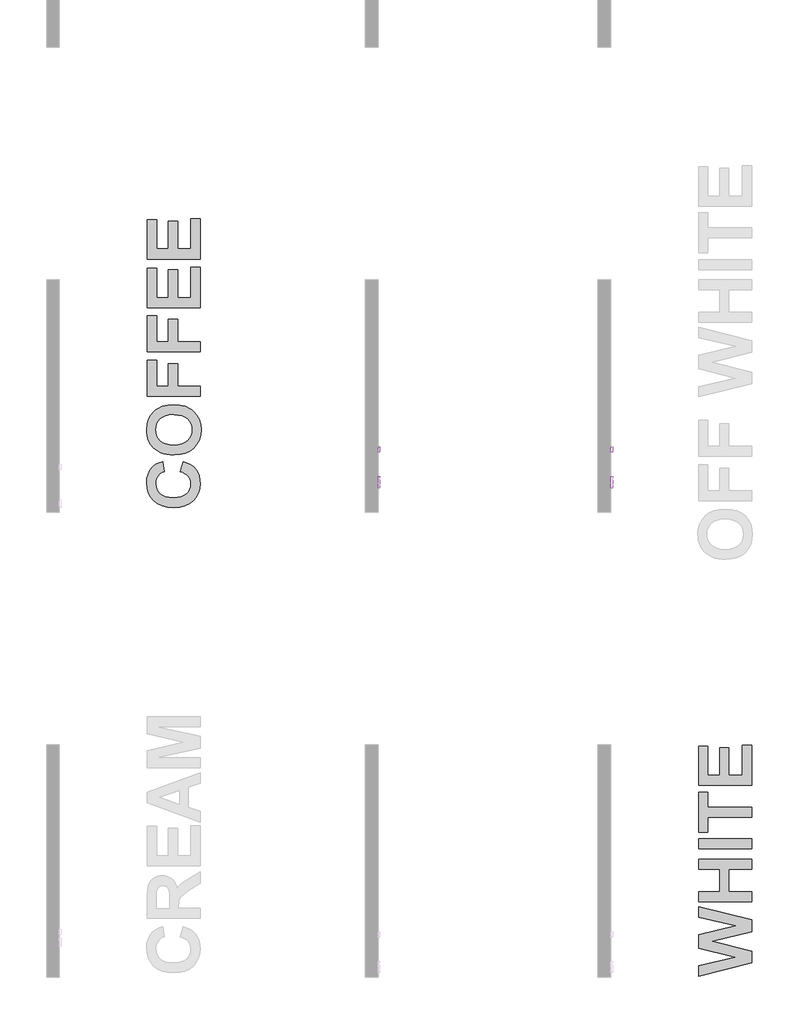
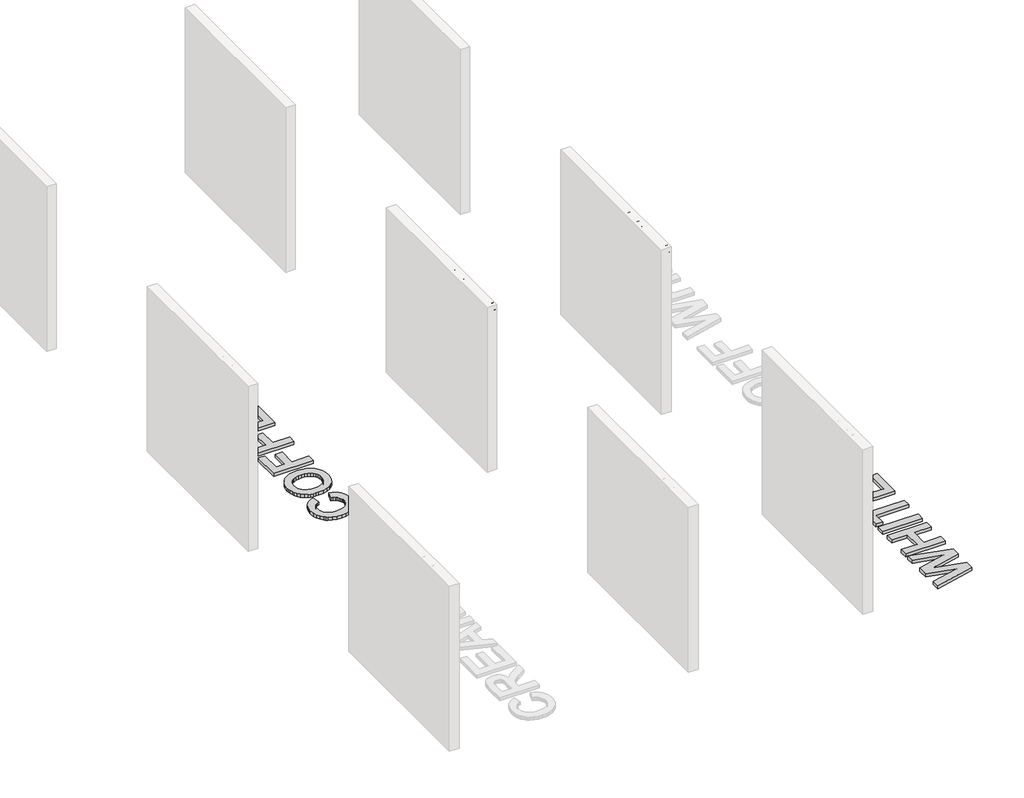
# One storey, part 5 of 8: 6 proxies.
"""IFC4 building model written with IfcOpenShell, lengths in millimetres."""

from ifc_helpers import new_model, si_unit, frame, origin, origin_with_axes, place, context, project, spatial, polyline, outline, extrude, element, save

model = new_model("IFC4")

# Units and contexts
model_context = context("Model", 3, world=origin())
ifc_project = project(units=[si_unit("LENGTHUNIT", "METRE", prefix="MILLI")], contexts=[model_context])

# Site, building, storey
site = spatial("IfcSite", under=ifc_project)
building = spatial("IfcBuilding", under=site)
storey = spatial("IfcBuildingStorey", under=building, Name="PORTOBELLO - SHOWROOM", Elevation=0.0)

# Proxies
placement = place(None, origin())
element("IfcBuildingElementProxy", 1, Name="10mm Arial", ObjectType="10mm Arial", at=placement, inside=storey, context=model_context, shape_type="SweptSolid", body=[
    extrude(outline(polyline([(-3769.6204253, 2597.7346043), (-3766.2726992, 2619.9485454), (-3756.2295207, 2636.7546212), (-3740.8949729, 2647.3312286), (-3721.6731386, 2650.8567644), (-3708.4968318, 2649.2012954), (-3696.6816884, 2644.2348885), (-3686.8715019, 2636.3070315), (-3679.7100657, 2625.7672123), (-3675.33227, 2613.1243344), (-3673.8730047, 2598.8873012), (-3675.4089121, 2584.4601956), (-3680.0166341, 2571.6395081), (-3687.441719, 2561.0812948), (-3697.4297152, 2553.4416121), (-3709.143691, 2548.8062989), (-3721.746715, 2547.2611945), (-3735.1253569, 2548.9687801), (-3747.0079454, 2554.0915369), (-3756.7936064, 2562.1665467), (-3763.8814662, 2572.7308913), (-3769.6204253, 2597.7346043)]), holes=[polyline([(-3757.0633866, 2597.6119769), (-3754.552592, 2581.8972844), (-3747.0202081, 2569.9227254), (-3735.6986397, 2562.3443563), (-3721.8202914, 2559.8182333), (-3707.7396081, 2562.3688818), (-3696.3996456, 2570.0208273), (-3688.922444, 2582.3632682), (-3686.4300435, 2598.9854031), (-3690.6974746, 2619.7094221), (-3703.1686743, 2633.4314205), (-3721.5995622, 2638.2997256), (-3735.1069628, 2635.9544779), (-3746.5910125, 2628.9187347), (-3754.445293, 2616.4015498), (-3757.0633866, 2597.6119769)])]), frame((23414.625413, 0.0, 0.0), z_axis=(1.0, 0.0, 0.0), x_axis=(0.0, 1.0, 0.0)), (0.0, 0.0, 1.0), 20.0),
    extrude(outline(polyline([(-3614.2270706, 2548.8308244), (-3614.2270706, 2610.0463884), (-3625.2144795, 2610.0463884), (-3625.2144795, 2622.6034272), (-3614.2270706, 2622.6034272), (-3614.2270706, 2630.0346435), (-3612.9026954, 2640.5070176), (-3606.4770232, 2647.9872848), (-3593.8218826, 2650.8567644), (-3582.3684898, 2649.4833383), (-3584.2078998, 2637.7111144), (-3591.4429124, 2638.2997256), (-3599.3523752, 2636.215061), (-3601.6700318, 2628.4404881), (-3601.6700318, 2622.6034272), (-3587.5433632, 2622.6034272), (-3587.5433632, 2610.0463884), (-3601.6700318, 2610.0463884), (-3601.6700318, 2548.8308244), (-3614.2270706, 2548.8308244)])), frame((23414.625413, 0.0, 0.0), z_axis=(1.0, 0.0, 0.0), x_axis=(0.0, 1.0, 0.0)), (0.0, 0.0, 1.0), 20.0),
    extrude(outline(polyline([(-3655.0374466, 2548.8308244), (-3655.0374466, 2610.0463884), (-3666.0248555, 2610.0463884), (-3666.0248555, 2622.6034272), (-3655.0374466, 2622.6034272), (-3655.0374466, 2630.0346435), (-3653.7130714, 2640.5070176), (-3647.2873992, 2647.9872848), (-3634.6322586, 2650.8567644), (-3623.1788658, 2649.4833383), (-3625.0182758, 2637.7111144), (-3632.2532883, 2638.2997256), (-3640.1627512, 2636.215061), (-3642.4804078, 2628.4404881), (-3642.4804078, 2622.6034272), (-3628.3537392, 2622.6034272), (-3628.3537392, 2610.0463884), (-3642.4804078, 2610.0463884), (-3642.4804078, 2548.8308244), (-3655.0374466, 2548.8308244)])), frame((23414.625413, 0.0, 0.0), z_axis=(1.0, 0.0, 0.0), x_axis=(0.0, 1.0, 0.0)), (0.0, 0.0, 1.0), 20.0),
    extrude(outline(polyline([(-3517.7684115, 2548.8308244), (-3545.1633574, 2649.2871345), (-3532.2139111, 2649.2871345), (-3516.3214089, 2583.2645791), (-3511.4163157, 2562.8839166), (-3506.1678659, 2580.9101344), (-3486.2531872, 2649.2871345), (-3467.5893073, 2649.2871345), (-3453.1192822, 2599.7211671), (-3442.3526024, 2562.8839166), (-3437.594662, 2582.6759679), (-3421.555007, 2649.2871345), (-3408.6055607, 2649.2871345), (-3436.0250321, 2548.8308244), (-3449.4404622, 2548.8308244), (-3473.5244702, 2626.331298), (-3476.8844591, 2637.1470287), (-3480.6613809, 2624.1240061), (-3502.6116732, 2548.8308244), (-3517.7684115, 2548.8308244)])), frame((23414.625413, 0.0, 0.0), z_axis=(1.0, 0.0, 0.0), x_axis=(0.0, 1.0, 0.0)), (0.0, 0.0, 1.0), 20.0),
    extrude(outline(polyline([(-3397.6181518, 2548.8308244), (-3397.6181518, 2649.2871345), (-3385.0611131, 2649.2871345), (-3385.0611131, 2612.3517822), (-3375.2693206, 2621.2177383), (-3363.2089225, 2624.173057), (-3349.1067794, 2620.9479582), (-3340.5473916, 2612.0329512), (-3337.9722177, 2595.5273123), (-3337.9722177, 2548.8308244), (-3350.5292564, 2548.8308244), (-3350.5292564, 2594.2274626), (-3354.5269075, 2607.4712144), (-3365.8576729, 2611.6160182), (-3376.146106, 2608.8201151), (-3383.0132366, 2601.241746), (-3385.0611131, 2588.0225196), (-3385.0611131, 2548.8308244), (-3397.6181518, 2548.8308244)])), frame((23414.625413, 0.0, 0.0), z_axis=(1.0, 0.0, 0.0), x_axis=(0.0, 1.0, 0.0)), (0.0, 0.0, 1.0), 20.0),
    extrude(outline(polyline([(23434.625413, -3308.1492506), (23434.625413, -3320.7062894), (23414.625413, -3320.7062894), (23414.625413, -3308.1492506), (23434.625413, -3308.1492506)])), frame((0.0, 0.0, 2636.7300958), z_axis=(0.0, 0.0, 1.0), x_axis=(1.0, 0.0, 0.0)), (0.0, 0.0, 1.0), 12.5570388),
    extrude(outline(polyline([(23434.625413, -3308.1492506), (23434.625413, -3320.7062894), (23414.625413, -3320.7062894), (23414.625413, -3308.1492506), (23434.625413, -3308.1492506)])), frame((0.0, 0.0, 2548.8308244), z_axis=(0.0, 0.0, 1.0), x_axis=(1.0, 0.0, 0.0)), (0.0, 0.0, 1.0), 73.7726028),
    extrude(outline(polyline([(-3262.6299851, 2559.3031985), (-3261.0603552, 2548.4629424), (-3270.4536088, 2547.2611945), (-3280.9750339, 2549.3458592), (-3286.2234837, 2554.8150382), (-3287.7440626, 2569.0643341), (-3287.7440626, 2610.0463884), (-3297.1618417, 2610.0463884), (-3297.1618417, 2622.6034272), (-3287.7440626, 2622.6034272), (-3287.7440626, 2640.531543), (-3275.1870238, 2647.9137084), (-3275.1870238, 2622.6034272), (-3262.6299851, 2622.6034272), (-3262.6299851, 2610.0463884), (-3275.1870238, 2610.0463884), (-3275.1870238, 2569.4322161), (-3274.5248362, 2562.957493), (-3272.3788579, 2560.6643619), (-3268.0991641, 2559.8182333), (-3262.6299851, 2559.3031985)])), frame((23414.625413, 0.0, 0.0), z_axis=(1.0, 0.0, 0.0), x_axis=(0.0, 1.0, 0.0)), (0.0, 0.0, 1.0), 20.0),
    extrude(outline(polyline([(-3198.4223142, 2570.8056422), (-3186.1105301, 2569.2360124), (-3190.5465738, 2559.9592547), (-3197.6252365, 2553.0246791), (-3207.1871027, 2548.7020657), (-3219.0727568, 2547.2611945), (-3233.8064307, 2549.7474637), (-3245.1433276, 2557.2062711), (-3252.3722088, 2569.1532389), (-3254.7818358, 2585.1039891), (-3252.3476833, 2601.5912339), (-3245.0452257, 2613.9214121), (-3233.861613, 2621.6101458), (-3219.7839954, 2624.173057), (-3206.1447704, 2621.6162771), (-3195.2462663, 2613.9459375), (-3188.1001585, 2601.6402848), (-3185.7181226, 2585.1775655), (-3185.791699, 2581.7930512), (-3242.2247971, 2581.7930512), (-3240.0512276, 2572.3936662), (-3235.0020472, 2565.483616), (-3227.714918, 2561.234579), (-3218.8275022, 2559.8182333), (-3206.5157181, 2562.4424582), (-3198.4223142, 2570.8056422)]), holes=[polyline([(-3242.2247971, 2594.3500899), (-3198.2751614, 2594.3500899), (-3203.302882, 2605.7299063), (-3210.6237337, 2610.1444902), (-3219.8330463, 2611.6160182), (-3235.2963528, 2606.9193914), (-3240.1615922, 2601.4287526), (-3242.2247971, 2594.3500899)])]), frame((23414.625413, 0.0, 0.0), z_axis=(1.0, 0.0, 0.0), x_axis=(0.0, 1.0, 0.0)), (0.0, 0.0, 1.0), 20.0),
])
element("IfcBuildingElementProxy", 2, Name="10mm Arial", ObjectType="10mm Arial", at=placement, inside=storey, context=model_context, shape_type="SweptSolid", body=[
    extrude(outline(polyline([(-3769.6204253, 2597.7346043), (-3766.2726992, 2619.9485454), (-3756.2295207, 2636.7546212), (-3740.8949729, 2647.3312286), (-3721.6731386, 2650.8567644), (-3708.4968318, 2649.2012954), (-3696.6816884, 2644.2348885), (-3686.8715019, 2636.3070315), (-3679.7100657, 2625.7672123), (-3675.33227, 2613.1243344), (-3673.8730047, 2598.8873012), (-3675.4089121, 2584.4601956), (-3680.0166341, 2571.6395081), (-3687.441719, 2561.0812948), (-3697.4297152, 2553.4416121), (-3709.143691, 2548.8062989), (-3721.746715, 2547.2611945), (-3735.1253569, 2548.9687801), (-3747.0079454, 2554.0915369), (-3756.7936064, 2562.1665467), (-3763.8814662, 2572.7308913), (-3769.6204253, 2597.7346043)]), holes=[polyline([(-3757.0633866, 2597.6119769), (-3754.552592, 2581.8972844), (-3747.0202081, 2569.9227254), (-3735.6986397, 2562.3443563), (-3721.8202914, 2559.8182333), (-3707.7396081, 2562.3688818), (-3696.3996456, 2570.0208273), (-3688.922444, 2582.3632682), (-3686.4300435, 2598.9854031), (-3690.6974746, 2619.7094221), (-3703.1686743, 2633.4314205), (-3721.5995622, 2638.2997256), (-3735.1069628, 2635.9544779), (-3746.5910125, 2628.9187347), (-3754.445293, 2616.4015498), (-3757.0633866, 2597.6119769)])]), frame((20714.625413, 0.0, 0.0), z_axis=(1.0, 0.0, 0.0), x_axis=(0.0, 1.0, 0.0)), (0.0, 0.0, 1.0), 20.0),
    extrude(outline(polyline([(-3614.2270706, 2548.8308244), (-3614.2270706, 2610.0463884), (-3625.2144795, 2610.0463884), (-3625.2144795, 2622.6034272), (-3614.2270706, 2622.6034272), (-3614.2270706, 2630.0346435), (-3612.9026954, 2640.5070176), (-3606.4770232, 2647.9872848), (-3593.8218826, 2650.8567644), (-3582.3684898, 2649.4833383), (-3584.2078998, 2637.7111144), (-3591.4429124, 2638.2997256), (-3599.3523752, 2636.215061), (-3601.6700318, 2628.4404881), (-3601.6700318, 2622.6034272), (-3587.5433632, 2622.6034272), (-3587.5433632, 2610.0463884), (-3601.6700318, 2610.0463884), (-3601.6700318, 2548.8308244), (-3614.2270706, 2548.8308244)])), frame((20714.625413, 0.0, 0.0), z_axis=(1.0, 0.0, 0.0), x_axis=(0.0, 1.0, 0.0)), (0.0, 0.0, 1.0), 20.0),
    extrude(outline(polyline([(-3655.0374466, 2548.8308244), (-3655.0374466, 2610.0463884), (-3666.0248555, 2610.0463884), (-3666.0248555, 2622.6034272), (-3655.0374466, 2622.6034272), (-3655.0374466, 2630.0346435), (-3653.7130714, 2640.5070176), (-3647.2873992, 2647.9872848), (-3634.6322586, 2650.8567644), (-3623.1788658, 2649.4833383), (-3625.0182758, 2637.7111144), (-3632.2532883, 2638.2997256), (-3640.1627512, 2636.215061), (-3642.4804078, 2628.4404881), (-3642.4804078, 2622.6034272), (-3628.3537392, 2622.6034272), (-3628.3537392, 2610.0463884), (-3642.4804078, 2610.0463884), (-3642.4804078, 2548.8308244), (-3655.0374466, 2548.8308244)])), frame((20714.625413, 0.0, 0.0), z_axis=(1.0, 0.0, 0.0), x_axis=(0.0, 1.0, 0.0)), (0.0, 0.0, 1.0), 20.0),
    extrude(outline(polyline([(-3517.7684115, 2548.8308244), (-3545.1633574, 2649.2871345), (-3532.2139111, 2649.2871345), (-3516.3214089, 2583.2645791), (-3511.4163157, 2562.8839166), (-3506.1678659, 2580.9101344), (-3486.2531872, 2649.2871345), (-3467.5893073, 2649.2871345), (-3453.1192822, 2599.7211671), (-3442.3526024, 2562.8839166), (-3437.594662, 2582.6759679), (-3421.555007, 2649.2871345), (-3408.6055607, 2649.2871345), (-3436.0250321, 2548.8308244), (-3449.4404622, 2548.8308244), (-3473.5244702, 2626.331298), (-3476.8844591, 2637.1470287), (-3480.6613809, 2624.1240061), (-3502.6116732, 2548.8308244), (-3517.7684115, 2548.8308244)])), frame((20714.625413, 0.0, 0.0), z_axis=(1.0, 0.0, 0.0), x_axis=(0.0, 1.0, 0.0)), (0.0, 0.0, 1.0), 20.0),
    extrude(outline(polyline([(-3397.6181518, 2548.8308244), (-3397.6181518, 2649.2871345), (-3385.0611131, 2649.2871345), (-3385.0611131, 2612.3517822), (-3375.2693206, 2621.2177383), (-3363.2089225, 2624.173057), (-3349.1067794, 2620.9479582), (-3340.5473916, 2612.0329512), (-3337.9722177, 2595.5273123), (-3337.9722177, 2548.8308244), (-3350.5292564, 2548.8308244), (-3350.5292564, 2594.2274626), (-3354.5269075, 2607.4712144), (-3365.8576729, 2611.6160182), (-3376.146106, 2608.8201151), (-3383.0132366, 2601.241746), (-3385.0611131, 2588.0225196), (-3385.0611131, 2548.8308244), (-3397.6181518, 2548.8308244)])), frame((20714.625413, 0.0, 0.0), z_axis=(1.0, 0.0, 0.0), x_axis=(0.0, 1.0, 0.0)), (0.0, 0.0, 1.0), 20.0),
    extrude(outline(polyline([(20734.625413, -3308.1492506), (20734.625413, -3320.7062894), (20714.625413, -3320.7062894), (20714.625413, -3308.1492506), (20734.625413, -3308.1492506)])), frame((0.0, 0.0, 2636.7300958), z_axis=(0.0, 0.0, 1.0), x_axis=(1.0, 0.0, 0.0)), (0.0, 0.0, 1.0), 12.5570388),
    extrude(outline(polyline([(20734.625413, -3308.1492506), (20734.625413, -3320.7062894), (20714.625413, -3320.7062894), (20714.625413, -3308.1492506), (20734.625413, -3308.1492506)])), frame((0.0, 0.0, 2548.8308244), z_axis=(0.0, 0.0, 1.0), x_axis=(1.0, 0.0, 0.0)), (0.0, 0.0, 1.0), 73.7726028),
    extrude(outline(polyline([(-3262.6299851, 2559.3031985), (-3261.0603552, 2548.4629424), (-3270.4536088, 2547.2611945), (-3280.9750339, 2549.3458592), (-3286.2234837, 2554.8150382), (-3287.7440626, 2569.0643341), (-3287.7440626, 2610.0463884), (-3297.1618417, 2610.0463884), (-3297.1618417, 2622.6034272), (-3287.7440626, 2622.6034272), (-3287.7440626, 2640.531543), (-3275.1870238, 2647.9137084), (-3275.1870238, 2622.6034272), (-3262.6299851, 2622.6034272), (-3262.6299851, 2610.0463884), (-3275.1870238, 2610.0463884), (-3275.1870238, 2569.4322161), (-3274.5248362, 2562.957493), (-3272.3788579, 2560.6643619), (-3268.0991641, 2559.8182333), (-3262.6299851, 2559.3031985)])), frame((20714.625413, 0.0, 0.0), z_axis=(1.0, 0.0, 0.0), x_axis=(0.0, 1.0, 0.0)), (0.0, 0.0, 1.0), 20.0),
    extrude(outline(polyline([(-3198.4223142, 2570.8056422), (-3186.1105301, 2569.2360124), (-3190.5465738, 2559.9592547), (-3197.6252365, 2553.0246791), (-3207.1871027, 2548.7020657), (-3219.0727568, 2547.2611945), (-3233.8064307, 2549.7474637), (-3245.1433276, 2557.2062711), (-3252.3722088, 2569.1532389), (-3254.7818358, 2585.1039891), (-3252.3476833, 2601.5912339), (-3245.0452257, 2613.9214121), (-3233.861613, 2621.6101458), (-3219.7839954, 2624.173057), (-3206.1447704, 2621.6162771), (-3195.2462663, 2613.9459375), (-3188.1001585, 2601.6402848), (-3185.7181226, 2585.1775655), (-3185.791699, 2581.7930512), (-3242.2247971, 2581.7930512), (-3240.0512276, 2572.3936662), (-3235.0020472, 2565.483616), (-3227.714918, 2561.234579), (-3218.8275022, 2559.8182333), (-3206.5157181, 2562.4424582), (-3198.4223142, 2570.8056422)]), holes=[polyline([(-3242.2247971, 2594.3500899), (-3198.2751614, 2594.3500899), (-3203.302882, 2605.7299063), (-3210.6237337, 2610.1444902), (-3219.8330463, 2611.6160182), (-3235.2963528, 2606.9193914), (-3240.1615922, 2601.4287526), (-3242.2247971, 2594.3500899)])]), frame((20714.625413, 0.0, 0.0), z_axis=(1.0, 0.0, 0.0), x_axis=(0.0, 1.0, 0.0)), (0.0, 0.0, 1.0), 20.0),
])
element("IfcBuildingElementProxy", 3, Name="10mm Arial Narrow", ObjectType="10mm Arial Narrow", at=placement, inside=storey, context=model_context, shape_type="SweptSolid", body=[
    extrude(outline(polyline([(-3130.3882863, 2548.8308244), (-3130.3882863, 2649.5494281), (-3099.0914016, 2649.5494281), (-3082.7957001, 2647.6711074), (-3071.322714, 2638.1906642), (-3067.0330356, 2621.1715554), (-3068.819344, 2609.0957299), (-3074.1782692, 2599.4693361), (-3083.922058, 2593.1680777), (-3098.8629572, 2591.0676582), (-3120.6413247, 2591.0676582), (-3120.6413247, 2548.8308244), (-3130.3882863, 2548.8308244)]), holes=[polyline([(-3120.6413247, 2602.4391135), (-3097.6699697, 2602.4391135), (-3081.8057743, 2606.9699277), (-3076.7799972, 2620.6385184), (-3079.2548117, 2630.8042949), (-3085.2324405, 2636.6042447), (-3097.8984142, 2638.1779729), (-3120.6413247, 2638.1779729), (-3120.6413247, 2602.4391135)])]), frame((23414.625413, 0.0, 0.0), z_axis=(1.0, 0.0, 0.0), x_axis=(0.0, 1.0, 0.0)), (0.0, 0.0, 1.0), 20.0),
    extrude(outline(polyline([(-3058.9105675, 2585.3819306), (-3056.9560987, 2601.9727061), (-3051.092692, 2613.9247909), (-3042.2341253, 2621.1493455), (-3031.2941762, 2623.5575304), (-3020.4811406, 2621.1493455), (-3011.5971912, 2613.9247909), (-3005.6576364, 2602.1630765), (-3003.6777848, 2586.143412), (-3005.6227352, 2568.9815254), (-3011.4575863, 2556.8390702), (-3020.3066345, 2549.6145156), (-3031.2941762, 2547.2063308), (-3042.1548044, 2549.6208613), (-3051.0292353, 2556.8644529), (-3056.9402345, 2568.8228834), (-3058.9105675, 2585.3819306)]), holes=[polyline([(-3049.1636059, 2585.4073133), (-3047.859569, 2572.8555619), (-3043.9474584, 2563.9843038), (-3038.1062617, 2558.7110453), (-3031.0149663, 2556.9532924), (-3024.2948932, 2558.7269095), (-3018.6028199, 2564.0477606), (-3014.7192648, 2572.9348829), (-3013.4247465, 2585.4073133), (-3014.7287833, 2597.9209906), (-3018.6408939, 2606.7795573), (-3024.4820907, 2612.0528159), (-3031.573386, 2613.8105687), (-3038.3410518, 2612.0432974), (-3044.0236066, 2606.7414833), (-3047.8786061, 2597.873398), (-3049.1636059, 2585.4073133)])]), frame((23414.625413, 0.0, 0.0), z_axis=(1.0, 0.0, 0.0), x_axis=(0.0, 1.0, 0.0)), (0.0, 0.0, 1.0), 20.0),
    extrude(outline(polyline([(-2932.200066, 2556.9532924), (-2930.5755724, 2547.2063308), (-2937.9365591, 2547.2063308), (-2946.2113234, 2549.3257873), (-2950.5263846, 2555.1257371), (-2951.6939893, 2569.7715623), (-2951.6939893, 2612.1860751), (-2959.8164574, 2612.1860751), (-2959.8164574, 2615.4350624), (-2961.440951, 2610.5615815), (-2969.0049994, 2612.1860751), (-2975.084159, 2609.8635569), (-2978.9550227, 2603.3782738), (-2980.9348743, 2587.9709673), (-2980.9348743, 2548.8308244), (-2990.681836, 2548.8308244), (-2990.681836, 2621.9330368), (-2980.9348743, 2621.9330368), (-2980.9348743, 2612.2368406), (-2974.690727, 2621.3238517), (-2968.2942834, 2623.5575304), (-2959.8164574, 2621.9330368), (-2951.6939893, 2621.9330368), (-2951.6939893, 2638.1779729), (-2941.9470277, 2646.3004409), (-2941.9470277, 2621.9330368), (-2932.200066, 2621.9330368), (-2932.200066, 2612.1860751), (-2941.9470277, 2612.1860751), (-2941.9470277, 2567.5378836), (-2941.0840155, 2559.5423291), (-2936.4643618, 2556.9532924), (-2932.200066, 2556.9532924)])), frame((23414.625413, 0.0, 0.0), z_axis=(1.0, 0.0, 0.0), x_axis=(0.0, 1.0, 0.0)), (0.0, 0.0, 1.0), 20.0),
    extrude(outline(polyline([(-2925.7020916, 2585.3819306), (-2923.7476227, 2601.9727061), (-2917.8842161, 2613.9247909), (-2909.0256494, 2621.1493455), (-2898.0857003, 2623.5575304), (-2887.2726647, 2621.1493455), (-2878.3887152, 2613.9247909), (-2872.4491605, 2602.1630765), (-2870.4693089, 2586.143412), (-2872.4142593, 2568.9815254), (-2878.2491103, 2556.8390702), (-2887.0981585, 2549.6145156), (-2898.0857003, 2547.2063308), (-2908.9463284, 2549.6208613), (-2917.8207593, 2556.8644529), (-2923.7317585, 2568.8228834), (-2925.7020916, 2585.3819306)]), holes=[polyline([(-2915.95513, 2585.4073133), (-2914.6510931, 2572.8555619), (-2910.7389825, 2563.9843038), (-2904.8977858, 2558.7110453), (-2897.8064904, 2556.9532924), (-2891.0864172, 2558.7269095), (-2885.3943439, 2564.0477606), (-2881.5107889, 2572.9348829), (-2880.2162706, 2585.4073133), (-2881.5203074, 2597.9209906), (-2885.432418, 2606.7795573), (-2891.2736148, 2612.0528159), (-2898.3649101, 2613.8105687), (-2905.1325759, 2612.0432974), (-2910.8151306, 2606.7414833), (-2914.6701301, 2597.873398), (-2915.95513, 2585.4073133)])]), frame((23414.625413, 0.0, 0.0), z_axis=(1.0, 0.0, 0.0), x_axis=(0.0, 1.0, 0.0)), (0.0, 0.0, 1.0), 20.0),
    extrude(outline(polyline([(-2847.7263984, 2548.8308244), (-2857.47336, 2548.8308244), (-2857.47336, 2649.5494281), (-2847.7263984, 2649.5494281), (-2847.7263984, 2614.140544), (-2840.3273376, 2621.2223208), (-2831.1261043, 2623.5575304), (-2818.2443776, 2619.3566915), (-2808.9669962, 2606.6272611), (-2805.4895645, 2585.9403503), (-2807.4218235, 2569.4860068), (-2813.2186005, 2557.2832677), (-2821.5917229, 2549.725565), (-2831.2530179, 2547.2063308), (-2840.5938561, 2549.8207502), (-2847.7263984, 2557.5878602), (-2847.7263984, 2548.8308244)]), holes=[polyline([(-2847.7263984, 2585.9403503), (-2845.6450159, 2568.692797), (-2839.7562266, 2559.9611439), (-2831.3037833, 2556.9532924), (-2825.3610557, 2558.7427737), (-2820.1226984, 2564.1112174), (-2815.2365262, 2585.5342269), (-2819.9450194, 2606.9699277), (-2825.1897224, 2612.1004085), (-2831.506845, 2613.8105687), (-2837.4844738, 2612.0210875), (-2842.7767694, 2606.6526438), (-2847.7263984, 2585.9403503)])]), frame((23414.625413, 0.0, 0.0), z_axis=(1.0, 0.0, 0.0), x_axis=(0.0, 1.0, 0.0)), (0.0, 0.0, 1.0), 20.0),
    extrude(outline(polyline([(-2753.5057691, 2571.5737349), (-2743.7588074, 2569.9492413), (-2747.4583378, 2560.0626747), (-2753.2773246, 2552.9428238), (-2760.9809779, 2548.640454), (-2770.3345075, 2547.2063308), (-2781.9280615, 2549.6208613), (-2791.0721838, 2556.8644529), (-2797.0117385, 2568.6705872), (-2798.9915901, 2584.7727455), (-2797.00222, 2601.4396692), (-2791.0341097, 2613.6201984), (-2782.0200739, 2621.0731974), (-2770.8929272, 2623.5575304), (-2760.209978, 2621.1588641), (-2751.4624607, 2613.962865), (-2745.6276096, 2602.2233604), (-2743.6826593, 2586.1941774), (-2743.7588074, 2582.9451902), (-2789.2446285, 2582.9451902), (-2783.2416169, 2563.5020323), (-2777.3115807, 2558.5904774), (-2770.207594, 2556.9532924), (-2760.0291262, 2560.608403), (-2753.5057691, 2571.5737349)]), holes=[polyline([(-2788.5846779, 2592.6921518), (-2753.5057691, 2592.6921518), (-2757.7700648, 2606.9572363), (-2763.5953973, 2612.0972356), (-2770.8167791, 2613.8105687), (-2783.0258639, 2608.0994584), (-2788.5846779, 2592.6921518)])]), frame((23414.625413, 0.0, 0.0), z_axis=(1.0, 0.0, 0.0), x_axis=(0.0, 1.0, 0.0)), (0.0, 0.0, 1.0), 20.0),
    extrude(outline(polyline([(23434.625413, -2721.0158969), (23434.625413, -2730.7628585), (23414.625413, -2730.7628585), (23414.625413, -2721.0158969), (23434.625413, -2721.0158969)])), frame((0.0, 0.0, 2548.8308244), z_axis=(0.0, 0.0, 1.0), x_axis=(1.0, 0.0, 0.0)), (0.0, 0.0, 1.0), 100.7186038),
    extrude(outline(polyline([(23434.625413, -2695.0239991), (23434.625413, -2704.7709608), (23414.625413, -2704.7709608), (23414.625413, -2695.0239991), (23434.625413, -2695.0239991)])), frame((0.0, 0.0, 2548.8308244), z_axis=(0.0, 0.0, 1.0), x_axis=(1.0, 0.0, 0.0)), (0.0, 0.0, 1.0), 100.7186038),
    extrude(outline(polyline([(-2683.6525439, 2585.3819306), (-2681.698075, 2601.9727061), (-2675.8346684, 2613.9247909), (-2666.9761017, 2621.1493455), (-2656.0361525, 2623.5575304), (-2645.2231169, 2621.1493455), (-2636.3391675, 2613.9247909), (-2630.3996128, 2602.1630765), (-2628.4197612, 2586.143412), (-2630.3647115, 2568.9815254), (-2636.1995626, 2556.8390702), (-2645.0486108, 2549.6145156), (-2656.0361525, 2547.2063308), (-2666.8967807, 2549.6208613), (-2675.7712116, 2556.8644529), (-2681.6822108, 2568.8228834), (-2683.6525439, 2585.3819306)]), holes=[polyline([(-2673.9055822, 2585.4073133), (-2672.6015454, 2572.8555619), (-2668.6894348, 2563.9843038), (-2662.848238, 2558.7110453), (-2655.7569427, 2556.9532924), (-2649.0368695, 2558.7269095), (-2643.3447962, 2564.0477606), (-2639.4612412, 2572.9348829), (-2638.1667228, 2585.4073133), (-2639.4707597, 2597.9209906), (-2643.3828703, 2606.7795573), (-2649.224067, 2612.0528159), (-2656.3153624, 2613.8105687), (-2663.0830281, 2612.0432974), (-2668.7655829, 2606.7414833), (-2672.6205824, 2597.873398), (-2673.9055822, 2585.4073133)])]), frame((23414.625413, 0.0, 0.0), z_axis=(1.0, 0.0, 0.0), x_axis=(0.0, 1.0, 0.0)), (0.0, 0.0, 1.0), 20.0),
])
element("IfcBuildingElementProxy", 4, Name="10mm Arial Narrow", ObjectType="10mm Arial Narrow", at=placement, inside=storey, context=model_context, shape_type="SweptSolid", body=[
    extrude(outline(polyline([(-3130.3882863, 2548.8308244), (-3130.3882863, 2649.5494281), (-3099.0914016, 2649.5494281), (-3082.7957001, 2647.6711074), (-3071.322714, 2638.1906642), (-3067.0330356, 2621.1715554), (-3068.819344, 2609.0957299), (-3074.1782692, 2599.4693361), (-3083.922058, 2593.1680777), (-3098.8629572, 2591.0676582), (-3120.6413247, 2591.0676582), (-3120.6413247, 2548.8308244), (-3130.3882863, 2548.8308244)]), holes=[polyline([(-3120.6413247, 2602.4391135), (-3097.6699697, 2602.4391135), (-3081.8057743, 2606.9699277), (-3076.7799972, 2620.6385184), (-3079.2548117, 2630.8042949), (-3085.2324405, 2636.6042447), (-3097.8984142, 2638.1779729), (-3120.6413247, 2638.1779729), (-3120.6413247, 2602.4391135)])]), frame((20714.625413, 0.0, 0.0), z_axis=(1.0, 0.0, 0.0), x_axis=(0.0, 1.0, 0.0)), (0.0, 0.0, 1.0), 20.0),
    extrude(outline(polyline([(-3058.9105675, 2585.3819306), (-3056.9560987, 2601.9727061), (-3051.092692, 2613.9247909), (-3042.2341253, 2621.1493455), (-3031.2941762, 2623.5575304), (-3020.4811406, 2621.1493455), (-3011.5971912, 2613.9247909), (-3005.6576364, 2602.1630765), (-3003.6777848, 2586.143412), (-3005.6227352, 2568.9815254), (-3011.4575863, 2556.8390702), (-3020.3066345, 2549.6145156), (-3031.2941762, 2547.2063308), (-3042.1548044, 2549.6208613), (-3051.0292353, 2556.8644529), (-3056.9402345, 2568.8228834), (-3058.9105675, 2585.3819306)]), holes=[polyline([(-3049.1636059, 2585.4073133), (-3047.859569, 2572.8555619), (-3043.9474584, 2563.9843038), (-3038.1062617, 2558.7110453), (-3031.0149663, 2556.9532924), (-3024.2948932, 2558.7269095), (-3018.6028199, 2564.0477606), (-3014.7192648, 2572.9348829), (-3013.4247465, 2585.4073133), (-3014.7287834, 2597.9209906), (-3018.6408939, 2606.7795573), (-3024.4820907, 2612.0528159), (-3031.573386, 2613.8105687), (-3038.3410518, 2612.0432974), (-3044.0236066, 2606.7414833), (-3047.8786061, 2597.873398), (-3049.1636059, 2585.4073133)])]), frame((20714.625413, 0.0, 0.0), z_axis=(1.0, 0.0, 0.0), x_axis=(0.0, 1.0, 0.0)), (0.0, 0.0, 1.0), 20.0),
    extrude(outline(polyline([(-2932.200066, 2556.9532924), (-2930.5755724, 2547.2063308), (-2937.9365591, 2547.2063308), (-2946.2113234, 2549.3257873), (-2950.5263846, 2555.1257371), (-2951.6939893, 2569.7715623), (-2951.6939893, 2612.1860751), (-2959.8164574, 2612.1860751), (-2959.8164574, 2615.4350624), (-2961.440951, 2610.5615815), (-2969.0049994, 2612.1860751), (-2975.084159, 2609.8635569), (-2978.9550227, 2603.3782738), (-2980.9348743, 2587.9709673), (-2980.9348743, 2548.8308244), (-2990.681836, 2548.8308244), (-2990.681836, 2621.9330368), (-2980.9348743, 2621.9330368), (-2980.9348743, 2612.2368406), (-2974.690727, 2621.3238517), (-2968.2942834, 2623.5575304), (-2959.8164574, 2621.9330368), (-2951.6939893, 2621.9330368), (-2951.6939893, 2638.1779729), (-2941.9470277, 2646.3004409), (-2941.9470277, 2621.9330368), (-2932.200066, 2621.9330368), (-2932.200066, 2612.1860751), (-2941.9470277, 2612.1860751), (-2941.9470277, 2567.5378836), (-2941.0840155, 2559.5423291), (-2936.4643618, 2556.9532924), (-2932.200066, 2556.9532924)])), frame((20714.625413, 0.0, 0.0), z_axis=(1.0, 0.0, 0.0), x_axis=(0.0, 1.0, 0.0)), (0.0, 0.0, 1.0), 20.0),
    extrude(outline(polyline([(-2925.7020916, 2585.3819306), (-2923.7476227, 2601.9727061), (-2917.8842161, 2613.9247909), (-2909.0256494, 2621.1493455), (-2898.0857003, 2623.5575304), (-2887.2726647, 2621.1493455), (-2878.3887152, 2613.9247909), (-2872.4491605, 2602.1630765), (-2870.4693089, 2586.143412), (-2872.4142593, 2568.9815254), (-2878.2491103, 2556.8390702), (-2887.0981585, 2549.6145156), (-2898.0857003, 2547.2063308), (-2908.9463284, 2549.6208613), (-2917.8207593, 2556.8644529), (-2923.7317585, 2568.8228834), (-2925.7020916, 2585.3819306)]), holes=[polyline([(-2915.95513, 2585.4073133), (-2914.6510931, 2572.8555619), (-2910.7389825, 2563.9843038), (-2904.8977858, 2558.7110453), (-2897.8064904, 2556.9532924), (-2891.0864172, 2558.7269095), (-2885.3943439, 2564.0477606), (-2881.5107889, 2572.9348829), (-2880.2162706, 2585.4073133), (-2881.5203074, 2597.9209906), (-2885.432418, 2606.7795573), (-2891.2736148, 2612.0528159), (-2898.3649101, 2613.8105687), (-2905.1325759, 2612.0432974), (-2910.8151306, 2606.7414833), (-2914.6701301, 2597.873398), (-2915.95513, 2585.4073133)])]), frame((20714.625413, 0.0, 0.0), z_axis=(1.0, 0.0, 0.0), x_axis=(0.0, 1.0, 0.0)), (0.0, 0.0, 1.0), 20.0),
    extrude(outline(polyline([(-2847.7263984, 2548.8308244), (-2857.47336, 2548.8308244), (-2857.47336, 2649.5494281), (-2847.7263984, 2649.5494281), (-2847.7263984, 2614.140544), (-2840.3273376, 2621.2223208), (-2831.1261043, 2623.5575304), (-2818.2443776, 2619.3566915), (-2808.9669962, 2606.6272611), (-2805.4895645, 2585.9403503), (-2807.4218235, 2569.4860068), (-2813.2186005, 2557.2832677), (-2821.5917229, 2549.725565), (-2831.2530179, 2547.2063308), (-2840.5938561, 2549.8207502), (-2847.7263984, 2557.5878602), (-2847.7263984, 2548.8308244)]), holes=[polyline([(-2847.7263984, 2585.9403503), (-2845.6450159, 2568.692797), (-2839.7562266, 2559.9611439), (-2831.3037833, 2556.9532924), (-2825.3610557, 2558.7427737), (-2820.1226984, 2564.1112174), (-2815.2365262, 2585.5342269), (-2819.9450194, 2606.9699277), (-2825.1897224, 2612.1004085), (-2831.506845, 2613.8105687), (-2837.4844738, 2612.0210875), (-2842.7767694, 2606.6526438), (-2847.7263984, 2585.9403503)])]), frame((20714.625413, 0.0, 0.0), z_axis=(1.0, 0.0, 0.0), x_axis=(0.0, 1.0, 0.0)), (0.0, 0.0, 1.0), 20.0),
    extrude(outline(polyline([(-2753.5057691, 2571.5737349), (-2743.7588074, 2569.9492413), (-2747.4583378, 2560.0626747), (-2753.2773246, 2552.9428238), (-2760.9809779, 2548.640454), (-2770.3345075, 2547.2063308), (-2781.9280615, 2549.6208613), (-2791.0721838, 2556.8644529), (-2797.0117385, 2568.6705872), (-2798.9915901, 2584.7727455), (-2797.00222, 2601.4396692), (-2791.0341097, 2613.6201984), (-2782.0200739, 2621.0731974), (-2770.8929272, 2623.5575304), (-2760.209978, 2621.1588641), (-2751.4624607, 2613.962865), (-2745.6276096, 2602.2233604), (-2743.6826593, 2586.1941774), (-2743.7588074, 2582.9451902), (-2789.2446285, 2582.9451902), (-2783.2416169, 2563.5020323), (-2777.3115807, 2558.5904774), (-2770.207594, 2556.9532924), (-2760.0291262, 2560.608403), (-2753.5057691, 2571.5737349)]), holes=[polyline([(-2788.5846779, 2592.6921518), (-2753.5057691, 2592.6921518), (-2757.7700648, 2606.9572363), (-2763.5953973, 2612.0972356), (-2770.8167791, 2613.8105687), (-2783.0258639, 2608.0994584), (-2788.5846779, 2592.6921518)])]), frame((20714.625413, 0.0, 0.0), z_axis=(1.0, 0.0, 0.0), x_axis=(0.0, 1.0, 0.0)), (0.0, 0.0, 1.0), 20.0),
    extrude(outline(polyline([(20734.625413, -2721.0158969), (20734.625413, -2730.7628585), (20714.625413, -2730.7628585), (20714.625413, -2721.0158969), (20734.625413, -2721.0158969)])), frame((0.0, 0.0, 2548.8308244), z_axis=(0.0, 0.0, 1.0), x_axis=(1.0, 0.0, 0.0)), (0.0, 0.0, 1.0), 100.7186038),
    extrude(outline(polyline([(20734.625413, -2695.0239991), (20734.625413, -2704.7709608), (20714.625413, -2704.7709608), (20714.625413, -2695.0239991), (20734.625413, -2695.0239991)])), frame((0.0, 0.0, 2548.8308244), z_axis=(0.0, 0.0, 1.0), x_axis=(1.0, 0.0, 0.0)), (0.0, 0.0, 1.0), 100.7186038),
    extrude(outline(polyline([(-2683.6525439, 2585.3819306), (-2681.698075, 2601.9727061), (-2675.8346684, 2613.9247909), (-2666.9761017, 2621.1493455), (-2656.0361525, 2623.5575304), (-2645.2231169, 2621.1493455), (-2636.3391675, 2613.9247909), (-2630.3996128, 2602.1630765), (-2628.4197612, 2586.143412), (-2630.3647115, 2568.9815254), (-2636.1995626, 2556.8390702), (-2645.0486108, 2549.6145156), (-2656.0361525, 2547.2063308), (-2666.8967807, 2549.6208613), (-2675.7712116, 2556.8644529), (-2681.6822108, 2568.8228834), (-2683.6525439, 2585.3819306)]), holes=[polyline([(-2673.9055822, 2585.4073133), (-2672.6015454, 2572.8555619), (-2668.6894348, 2563.9843038), (-2662.848238, 2558.7110453), (-2655.7569427, 2556.9532924), (-2649.0368695, 2558.7269095), (-2643.3447962, 2564.0477606), (-2639.4612412, 2572.9348829), (-2638.1667228, 2585.4073133), (-2639.4707597, 2597.9209906), (-2643.3828703, 2606.7795573), (-2649.224067, 2612.0528159), (-2656.3153624, 2613.8105687), (-2663.0830281, 2612.0432974), (-2668.7655829, 2606.7414833), (-2672.6205824, 2597.873398), (-2673.9055822, 2585.4073133)])]), frame((20714.625413, 0.0, 0.0), z_axis=(1.0, 0.0, 0.0), x_axis=(0.0, 1.0, 0.0)), (0.0, 0.0, 1.0), 20.0),
])
element("IfcBuildingElementProxy", 5, Name="600mm Arial", ObjectType="600mm Arial", at=placement, inside=storey, context=model_context, shape_type="SweptSolid", body=[
    extrude(outline(polyline([(18414.7223008, -3354.965328), (18453.5893256, -3238.3642537), (18499.6917279, -3254.4671202), (18539.464954, -3275.1436942), (18572.909004, -3300.3939756), (18600.0238779, -3330.2179646), (18620.9803779, -3364.4923038), (18635.9493065, -3403.093636), (18644.9306637, -3446.0219612), (18647.9244494, -3493.2772794), (18642.8098678, -3551.6632177), (18627.4661229, -3604.6024587), (18601.8932147, -3652.0950024), (18566.0911433, -3694.1408488), (18521.4168385, -3728.5480343), (18469.2272301, -3753.1245953), (18409.522318, -3767.870532), (18342.3021023, -3772.7858442), (18271.4191251, -3767.8278314), (18208.9244412, -3752.953793), (18154.8180508, -3728.163729), (18130.9104656, -3712.0501874), (18109.0999538, -3693.4576394), (18072.7664973, -3650.6669049), (18046.8140284, -3601.6229065), (18031.242547, -3546.3256441), (18026.0520532, -3484.7751177), (18030.3316011, -3430.9533979), (18043.1702448, -3382.4455291), (18064.5679843, -3339.2515114), (18094.5248195, -3301.3713447), (18116.928395, -3281.6626507), (18143.7538538, -3264.5919042), (18175.0011957, -3250.1591052), (18210.6704208, -3238.3642537), (18230.1039332, -3354.965328), (18208.7488943, -3362.3145738), (18189.7755994, -3372.8236631), (18173.1840484, -3386.492596), (18158.9742414, -3403.3213725), (18147.5826732, -3422.7216733), (18139.4458388, -3444.1051792), (18134.5637382, -3467.4718903), (18132.9363713, -3492.8218065), (18135.892201, -3527.470962), (18144.7596899, -3558.6945813), (18159.5388381, -3586.4926646), (18180.2296456, -3610.8652117), (18207.5342998, -3630.6925184), (18242.1549883, -3644.8548804), (18284.0917109, -3653.3522975), (18333.3444677, -3656.1847699), (18385.4771421, -3653.4376987), (18429.5251716, -3645.1964851), (18465.4885563, -3631.461129), (18493.3672962, -3612.2316306), (18514.2241616, -3588.599227), (18529.1219225, -3561.6551555), (18538.0605791, -3531.3994161), (18541.0401313, -3497.8320089), (18539.1375828, -3472.8426755), (18533.4299375, -3449.6467668), (18523.9171952, -3428.2442828), (18510.599356, -3408.6352235), (18493.1917494, -3391.2465949), (18471.4097046, -3376.5054028), (18445.2532218, -3364.4116472), (18414.7223008, -3354.965328)])), origin_with_axes(), (0.0, 0.0, 1.0), 50.0),
    extrude(outline(polyline([(18345.6422373, -3160.6302042), (18300.8350862, -3158.9126917), (18259.7855869, -3153.7601539), (18222.4937394, -3145.1725911), (18188.9595437, -3133.1500031), (18144.7217338, -3108.9150468), (18105.2284337, -3077.2027429), (18072.9088326, -3040.0627197), (18050.1921194, -2999.5446055), (18039.6308404, -2970.3753589), (18032.0870698, -2939.0426158), (18027.5608074, -2905.5463762), (18026.0520532, -2869.8866401), (18031.2852476, -2806.784659), (18046.9848307, -2750.3249917), (18073.1508026, -2700.5076382), (18109.7831632, -2657.3325984), (18131.7371964, -2638.6510909), (18155.7337412, -2622.460451), (18209.8543651, -2597.5517742), (18272.1450351, -2582.6065682), (18342.605751, -2577.6248328), (18412.5872714, -2582.5686121), (18474.503125, -2597.3999499), (18528.3533119, -2622.1188463), (18552.2537803, -2638.1861289), (18574.1378321, -2656.7253012), (18610.670558, -2699.6156703), (18636.7653622, -2749.1863093), (18652.4222447, -2805.4372182), (18657.6412056, -2868.3683969), (18652.4459673, -2931.9638071), (18636.8602524, -2988.689167), (18610.8840609, -3038.5444765), (18574.5173929, -3081.5297359), (18529.0412659, -3116.1361908), (18475.7366976, -3140.8550871), (18414.6036881, -3155.6864249), (18345.6422373, -3160.6302042)]), holes=[polyline([(18341.3911565, -3044.0291299), (18389.8136241, -3040.930965), (18431.9923167, -3031.6364702), (18467.9272344, -3016.1456455), (18497.6183771, -2994.4584909), (18520.8664754, -2967.9983595), (18537.4722599, -2938.188604), (18547.4357306, -2905.0292246), (18550.7568875, -2868.5202213), (18547.4594531, -2832.049174), (18537.5671501, -2799.0036628), (18521.0799783, -2769.3836878), (18497.9979379, -2743.1892488), (18468.3210287, -2721.7677868), (18432.0492508, -2706.4667425), (18389.1826043, -2697.286116), (18339.721089, -2694.2259071), (18290.9475276, -2697.2054593), (18248.778324, -2706.1441159), (18213.2134781, -2721.0418768), (18184.2529899, -2741.8987422), (18161.8019693, -2767.6898977), (18145.765526, -2797.3905295), (18136.14366, -2831.0006373), (18132.9363713, -2868.5202213), (18136.1816161, -2906.0777613), (18145.9173503, -2939.8017374), (18162.143574, -2969.6921495), (18184.8602872, -2995.7489976), (18214.114935, -3016.8715555), (18249.9549625, -3031.9590969), (18292.3803696, -3041.0116217), (18341.3911565, -3044.0291299)])]), origin_with_axes(), (0.0, 0.0, 1.0), 50.0),
    extrude(outline(polyline([(18647.9244494, -2480.4572709), (18035.7688094, -2480.4572709), (18035.7688094, -2062.6367547), (18142.6531275, -2062.6367547), (18142.6531275, -2363.8561966), (18278.6877142, -2363.8561966), (18278.6877142, -2101.5037795), (18385.5720323, -2101.5037795), (18385.5720323, -2363.8561966), (18647.9244494, -2363.8561966), (18647.9244494, -2480.4572709)])), origin_with_axes(), (0.0, 0.0, 1.0), 50.0),
    extrude(outline(polyline([(18647.9244494, -1965.4691928), (18035.7688094, -1965.4691928), (18035.7688094, -1547.6486767), (18142.6531275, -1547.6486767), (18142.6531275, -1848.8681186), (18278.6877142, -1848.8681186), (18278.6877142, -1586.5157014), (18385.5720323, -1586.5157014), (18385.5720323, -1848.8681186), (18647.9244494, -1848.8681186), (18647.9244494, -1965.4691928)])), origin_with_axes(), (0.0, 0.0, 1.0), 50.0),
    extrude(outline(polyline([(18647.9244494, -1450.4811148), (18035.7688094, -1450.4811148), (18035.7688094, -993.7935738), (18142.6531275, -993.7935738), (18142.6531275, -1333.8800405), (18278.6877142, -1333.8800405), (18278.6877142, -1013.2270862), (18385.5720323, -1013.2270862), (18385.5720323, -1333.8800405), (18541.0401313, -1333.8800405), (18541.0401313, -984.0768176), (18647.9244494, -984.0768176), (18647.9244494, -1450.4811148)])), origin_with_axes(), (0.0, 0.0, 1.0), 50.0),
    extrude(outline(polyline([(18647.9244494, -886.9092557), (18035.7688094, -886.9092557), (18035.7688094, -430.2217148), (18142.6531275, -430.2217148), (18142.6531275, -770.3081815), (18278.6877142, -770.3081815), (18278.6877142, -449.6552272), (18385.5720323, -449.6552272), (18385.5720323, -770.3081815), (18541.0401313, -770.3081815), (18541.0401313, -420.5049586), (18647.9244494, -420.5049586), (18647.9244494, -886.9092557)])), origin_with_axes(), (0.0, 0.0, 1.0), 50.0),
])
element("IfcBuildingElementProxy", 6, Name="600mm Arial", ObjectType="600mm Arial", at=placement, inside=storey, context=model_context, shape_type="SweptSolid", body=[
    extrude(outline(polyline([(25047.9244494, -9057.5511888), (24435.7688094, -9211.652869), (24435.7688094, -9092.0153084), (24856.3221633, -8993.0258547), (24435.7688094, -8886.5970095), (24435.7688094, -8729.7624917), (24863.3060818, -8623.7891195), (24435.7688094, -8524.7996658), (24435.7688094, -8405.1621052), (25047.9244494, -8556.9864207), (25047.9244494, -8694.9947234), (24590.3259626, -8808.4074871), (25047.9244494, -8924.0976155), (25047.9244494, -9057.5511888)])), origin_with_axes(), (0.0, 0.0, 1.0), 50.0),
    extrude(outline(polyline([(25047.9244494, -8346.861568), (24435.7688094, -8346.861568), (24435.7688094, -8230.2604938), (24678.6877142, -8230.2604938), (24678.6877142, -7967.9080766), (24435.7688094, -7967.9080766), (24435.7688094, -7851.3070023), (25047.9244494, -7851.3070023), (25047.9244494, -7967.9080766), (24785.5720323, -7967.9080766), (24785.5720323, -8230.2604938), (25047.9244494, -8230.2604938), (25047.9244494, -8346.861568)])), origin_with_axes(), (0.0, 0.0, 1.0), 50.0),
    extrude(outline(polyline([(25047.9244494, -7734.7059281), (24435.7688094, -7734.7059281), (24435.7688094, -7618.1048538), (25047.9244494, -7618.1048538), (25047.9244494, -7734.7059281)])), origin_with_axes(), (0.0, 0.0, 1.0), 50.0),
    extrude(outline(polyline([(25047.9244494, -7365.4691928), (24542.6531275, -7365.4691928), (24542.6531275, -7540.3708043), (24435.7688094, -7540.3708043), (24435.7688094, -7073.9665071), (24542.6531275, -7073.9665071), (24542.6531275, -7248.8681186), (25047.9244494, -7248.8681186), (25047.9244494, -7365.4691928)])), origin_with_axes(), (0.0, 0.0, 1.0), 50.0),
    extrude(outline(polyline([(25047.9244494, -6996.2324576), (24435.7688094, -6996.2324576), (24435.7688094, -6539.5449167), (24542.6531275, -6539.5449167), (24542.6531275, -6879.6313833), (24678.6877142, -6879.6313833), (24678.6877142, -6558.9784291), (24785.5720323, -6558.9784291), (24785.5720323, -6879.6313833), (24941.0401313, -6879.6313833), (24941.0401313, -6529.8281605), (25047.9244494, -6529.8281605), (25047.9244494, -6996.2324576)])), origin_with_axes(), (0.0, 0.0, 1.0), 50.0),
])

save(model, "model.ifc")
